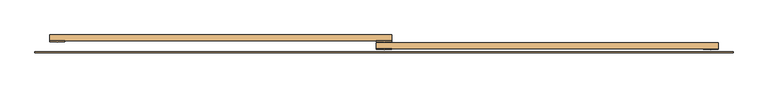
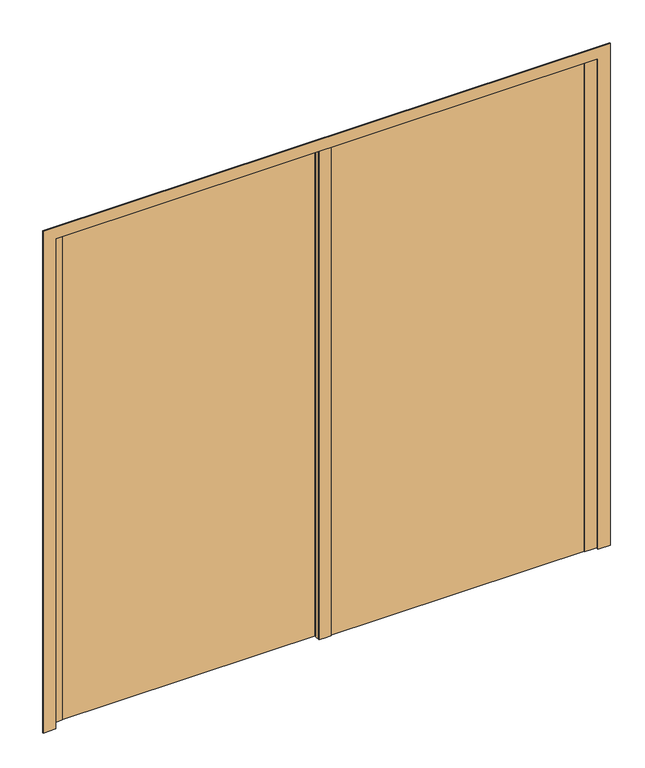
"""IFC4 building model written with IfcOpenShell, lengths in millimetres: door geometry, Portes - Placard coulissante - 2 panneaux - Placard coulissante - 2 panneaux 2.20."""

from ifc_helpers import new_model, si_unit, point, frame, frame_2d, origin, origin_with_axes, place, context, project, spatial, polyline, circle_curve, trimmed, segment, composite_curve, outline, extrude, source, transform, mapped, element, save


def door_9579ce56(model_context):
    return source(origin(), model_context, "Body", "SweptSolid", [
        extrude(outline(composite_curve([segment(polyline([(1125.0, 10.0), (1125.0, 8.0)]), True, "CONTINUOUS"), segment(trimmed(circle_curve(frame_2d((1100.0, 221.8603852)), 215.3166607), [point((1125.0, 8.0))], [point((1075.0, 8.0))], False, "CARTESIAN"), True, "CONTINUOUS"), segment(polyline([(1075.0, 8.0), (1075.0, 10.0), (1125.0, 10.0)]), True, "CONTINUOUS")], self_intersect=False)), origin_with_axes(), (0.0, 0.0, 1.0), 2100.0),
        extrude(outline(composite_curve([segment(polyline([(1125.0, 35.0), (1125.0, 33.0)]), True, "CONTINUOUS"), segment(trimmed(circle_curve(frame_2d((1100.0, 246.8603852)), 215.3166607), [point((1125.0, 33.0))], [point((1075.0, 33.0))], False, "CARTESIAN"), True, "CONTINUOUS"), segment(polyline([(1075.0, 33.0), (1075.0, 35.0), (1125.0, 35.0)]), True, "CONTINUOUS")], self_intersect=False)), origin_with_axes(), (0.0, 0.0, 1.0), 2100.0),
        extrude(outline(composite_curve([segment(polyline([(50.0, 35.0), (50.0, 33.0)]), True, "CONTINUOUS"), segment(trimmed(circle_curve(frame_2d((25.0, 246.8603852)), 215.3166607), [point((50.0, 33.0))], [point((0.0, 33.0))], False, "CARTESIAN"), True, "CONTINUOUS"), segment(polyline([(0.0, 33.0), (0.0, 35.0), (50.0, 35.0)]), True, "CONTINUOUS")], self_intersect=False)), origin_with_axes(), (0.0, 0.0, 1.0), 2100.0),
        extrude(outline(polyline([(0.0, -48.0), (0.0, 2.0), (2098.0, 2.0), (2098.0, 2198.0), (0.0, 2198.0), (0.0, 2248.0), (2148.0, 2248.0), (2148.0, -48.0), (0.0, -48.0)])), frame((0.0, -3.0, 0.0), z_axis=(0.0, 1.0, 0.0), x_axis=(0.0, 0.0, 1.0)), (0.0, 0.0, 1.0), 3.0),
        extrude(outline(polyline([(2200.0, 10.0), (1075.0, 10.0), (1075.0, 30.0), (2200.0, 30.0), (2200.0, 10.0)])), origin_with_axes(), (0.0, 0.0, 1.0), 2100.0),
        extrude(outline(polyline([(1125.0, 35.0), (0.0, 35.0), (0.0, 55.0), (1125.0, 55.0), (1125.0, 35.0)])), origin_with_axes(), (0.0, 0.0, 1.0), 2100.0),
        extrude(outline(composite_curve([segment(polyline([(2200.0, 10.0), (2200.0, 8.0)]), True, "CONTINUOUS"), segment(trimmed(circle_curve(frame_2d((2175.0, 221.8603852)), 215.3166607), [point((2200.0, 8.0))], [point((2150.0, 8.0))], False, "CARTESIAN"), True, "CONTINUOUS"), segment(polyline([(2150.0, 8.0), (2150.0, 10.0), (2200.0, 10.0)]), True, "CONTINUOUS")], self_intersect=False)), origin_with_axes(), (0.0, 0.0, 1.0), 2100.0),
    ])


if __name__ == "__main__":
    model = new_model("IFC4")
    model_context = context("Model", 3, world=origin())
    ifc_project = project(units=[si_unit("LENGTHUNIT", "METRE", prefix="MILLI")], contexts=[model_context])
    site = spatial("IfcSite", under=ifc_project)
    building = spatial("IfcBuilding", under=site)
    placement = place(None, origin())
    door_shape = door_9579ce56(model_context)
    element("IfcDoor", 1, ObjectType="Portes - Placard coulissante - 2 panneaux - Placard coulissante - 2 panneaux 2.20", at=placement, inside=building, context=model_context, shape_type="MappedRepresentation", body=[
        mapped(door_shape, transform((0.0, 0.0, 0.0), x_axis=(1.0, 0.0, 0.0), y_axis=(0.0, 1.0, 0.0), z_axis=(0.0, 0.0, 1.0))),
    ])
    save(model, "model.ifc")
